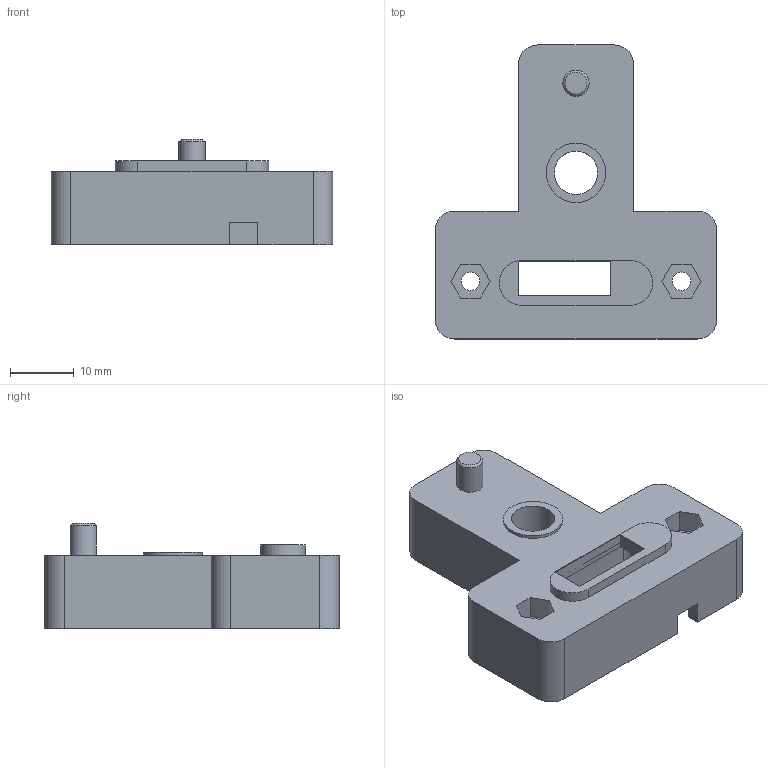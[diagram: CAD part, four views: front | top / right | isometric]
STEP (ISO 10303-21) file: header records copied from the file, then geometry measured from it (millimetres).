
FILE_DESCRIPTION(('Open CASCADE Model'),'2;1');
FILE_NAME('Open CASCADE Shape Model','2026-10-19T15:20:36',('Author'),( 'Open CASCADE'),'Open CASCADE STEP processor 7.9','Open CASCADE 7.9' ,'Unknown');
FILE_SCHEMA(('AUTOMOTIVE_DESIGN { 1 0 10303 214 1 1 1 1 }'));
Length unit declared in the file: millimetre
Products named in the file (1): Open CASCADE STEP translator 7.9 1
Bounding box: 44 x 46 x 16.5 mm (x, y, z)
Volume: 10808.2 mm3; surface area: 6036.7 mm2
Topology: 1 solids, 1 shells, 66 faces, 170 edges, 113 vertices
Faces by surface type: plane 47, cylinder 18, cone 1
Full cylindrical faces by diameter (mm): 2.9 x2, 4.1 x1, 6.8 x1, 9.3 x1, 11.8 x1
Entity records: 4210 total; most frequent: CARTESIAN_POINT 872, DIRECTION 584, LINE 357, VECTOR 357, ORIENTED_EDGE 340, PCURVE 340, DEFINITIONAL_REPRESENTATION 340, EDGE_CURVE 170
